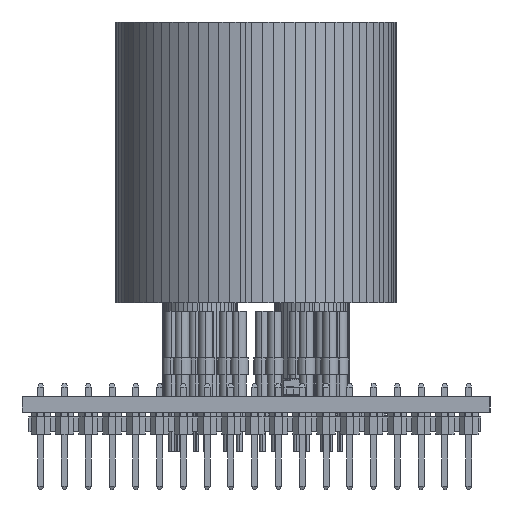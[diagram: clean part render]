
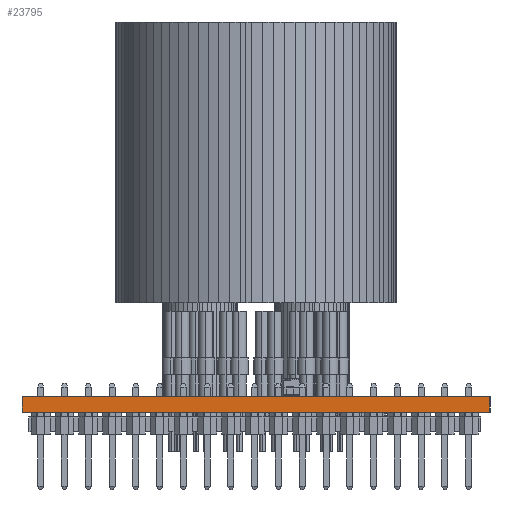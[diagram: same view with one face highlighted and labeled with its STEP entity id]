
A CAD part, left-side view. The second image highlights one B-rep face of the part: STEP entity #23795.
In plain terms, the highlighted planar face has unit normal (-1, 0, 0).
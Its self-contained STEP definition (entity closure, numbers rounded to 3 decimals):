
#23697 = EDGE_CURVE('',#23698,#23700,#23702,.T.);
#23698 = VERTEX_POINT('',#23699);
#23699 = CARTESIAN_POINT('',(0.,0.,-1.691));
#23700 = VERTEX_POINT('',#23701);
#23701 = CARTESIAN_POINT('',(0.,0.,0.));
#23702 = LINE('',#23703,#23704);
#23703 = CARTESIAN_POINT('',(0.,0.,-1.691));
#23704 = VECTOR('',#23705,1.);
#23705 = DIRECTION('',(0.,0.,1.));
#23770 = VERTEX_POINT('',#23771);
#23771 = CARTESIAN_POINT('',(0.,50.,0.));
#23777 = EDGE_CURVE('',#23778,#23770,#23780,.T.);
#23778 = VERTEX_POINT('',#23779);
#23779 = CARTESIAN_POINT('',(0.,50.,-1.691));
#23780 = LINE('',#23781,#23782);
#23781 = CARTESIAN_POINT('',(0.,50.,-1.691));
#23782 = VECTOR('',#23783,1.);
#23783 = DIRECTION('',(0.,0.,1.));
#23795 = ADVANCED_FACE('',(#23796),#23812,.F.);
#23796 = FACE_BOUND('',#23797,.F.);
#23797 = EDGE_LOOP('',(#23798,#23799,#23805,#23806));
#23798 = ORIENTED_EDGE('',*,*,#23777,.T.);
#23799 = ORIENTED_EDGE('',*,*,#23800,.T.);
#23800 = EDGE_CURVE('',#23770,#23700,#23801,.T.);
#23801 = LINE('',#23802,#23803);
#23802 = CARTESIAN_POINT('',(0.,50.,0.));
#23803 = VECTOR('',#23804,1.);
#23804 = DIRECTION('',(0.,-1.,0.));
#23805 = ORIENTED_EDGE('',*,*,#23697,.F.);
#23806 = ORIENTED_EDGE('',*,*,#23807,.F.);
#23807 = EDGE_CURVE('',#23778,#23698,#23808,.T.);
#23808 = LINE('',#23809,#23810);
#23809 = CARTESIAN_POINT('',(0.,50.,-1.691));
#23810 = VECTOR('',#23811,1.);
#23811 = DIRECTION('',(0.,-1.,0.));
#23812 = PLANE('',#23813);
#23813 = AXIS2_PLACEMENT_3D('',#23814,#23815,#23816);
#23814 = CARTESIAN_POINT('',(0.,50.,-1.691));
#23815 = DIRECTION('',(1.,0.,0.));
#23816 = DIRECTION('',(0.,-1.,0.));
